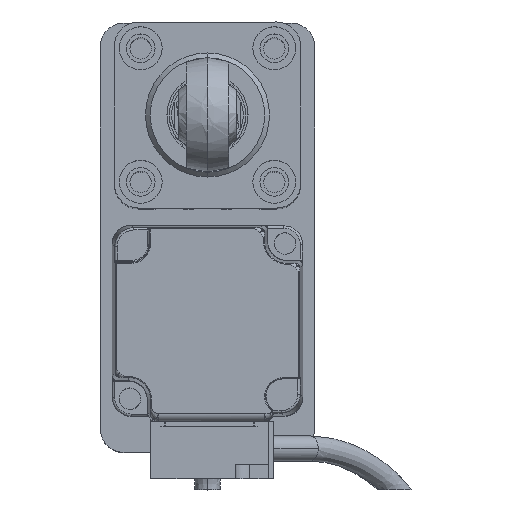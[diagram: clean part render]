
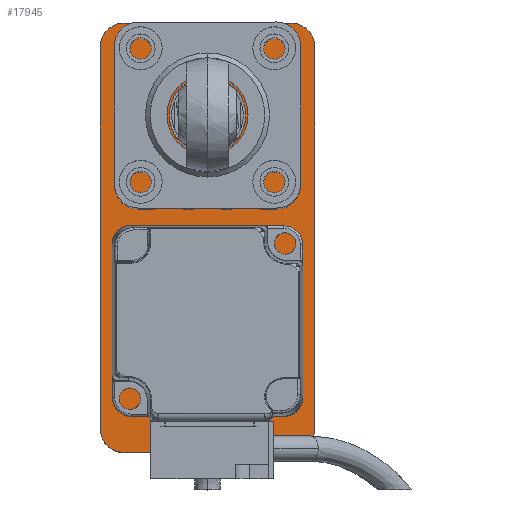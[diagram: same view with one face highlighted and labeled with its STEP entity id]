
A CAD part, top view. The second image highlights one B-rep face of the part: STEP entity #17945.
In plain terms, the highlighted planar face has unit normal (0, 0, 1).
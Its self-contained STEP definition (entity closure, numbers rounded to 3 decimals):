
#816 = AXIS2_PLACEMENT_3D ( 'NONE', #23848, #26377, #1260 ) ;
#823 = CIRCLE ( 'NONE', #816, 5. ) ;
#1222 = DIRECTION ( 'NONE',  ( 1., 0., 0. ) ) ;
#1260 = DIRECTION ( 'NONE',  ( 1., 0., 0. ) ) ;
#1509 = DIRECTION ( 'NONE',  ( 1., 0., 0. ) ) ;
#1605 = CARTESIAN_POINT ( 'NONE',  ( 0., 0., 10. ) ) ;
#1658 = LINE ( 'NONE', #21866, #7593 ) ;
#2030 = DIRECTION ( 'NONE',  ( 0., -1., 0. ) ) ;
#2950 = VECTOR ( 'NONE', #2030, 1000. ) ;
#3005 = CARTESIAN_POINT ( 'NONE',  ( 22.5, -45., 10. ) ) ;
#3023 = AXIS2_PLACEMENT_3D ( 'NONE', #19333, #11820, #14226 ) ;
#3083 = VECTOR ( 'NONE', #17116, 1000. ) ;
#3217 = EDGE_CURVE ( 'NONE', #3538, #24093, #27966, .T. ) ;
#3538 = VERTEX_POINT ( 'NONE', #12970 ) ;
#3651 = CARTESIAN_POINT ( 'NONE',  ( -17.5, 40., 10. ) ) ;
#4061 = ORIENTED_EDGE ( 'NONE', *, *, #25089, .T. ) ;
#5196 = EDGE_CURVE ( 'NONE', #15270, #20166, #13833, .T. ) ;
#6359 = DIRECTION ( 'NONE',  ( 0., 0., 1. ) ) ;
#6987 = AXIS2_PLACEMENT_3D ( 'NONE', #21448, #6359, #19574 ) ;
#7366 = EDGE_LOOP ( 'NONE', ( #29850, #4061, #13584, #19271, #16703, #19001, #9566, #15931 ) ) ;
#7593 = VECTOR ( 'NONE', #31975, 1000. ) ;
#7962 = FACE_OUTER_BOUND ( 'NONE', #7366, .T. ) ;
#8010 = CARTESIAN_POINT ( 'NONE',  ( 17.5, -45., 10. ) ) ;
#9105 = PLANE ( 'NONE',  #9331 ) ;
#9331 = AXIS2_PLACEMENT_3D ( 'NONE', #1605, #19273, #1509 ) ;
#9566 = ORIENTED_EDGE ( 'NONE', *, *, #31124, .T. ) ;
#9655 = LINE ( 'NONE', #16901, #2950 ) ;
#10603 = LINE ( 'NONE', #12068, #3083 ) ;
#11820 = DIRECTION ( 'NONE',  ( 0., 0., 1. ) ) ;
#11831 = EDGE_CURVE ( 'NONE', #23533, #3538, #9655, .T. ) ;
#12068 = CARTESIAN_POINT ( 'NONE',  ( 22.5, 45., 10. ) ) ;
#12970 = CARTESIAN_POINT ( 'NONE',  ( -22.5, -40., 10. ) ) ;
#13584 = ORIENTED_EDGE ( 'NONE', *, *, #14067, .T. ) ;
#13833 = CIRCLE ( 'NONE', #3023, 5. ) ;
#14009 = CARTESIAN_POINT ( 'NONE',  ( -17.5, -45., 10. ) ) ;
#14067 = EDGE_CURVE ( 'NONE', #22220, #19460, #10603, .T. ) ;
#14226 = DIRECTION ( 'NONE',  ( 1., 0., 0. ) ) ;
#15270 = VERTEX_POINT ( 'NONE', #8010 ) ;
#15811 = VERTEX_POINT ( 'NONE', #19396 ) ;
#15931 = ORIENTED_EDGE ( 'NONE', *, *, #5196, .T. ) ;
#16703 = ORIENTED_EDGE ( 'NONE', *, *, #11831, .T. ) ;
#16901 = CARTESIAN_POINT ( 'NONE',  ( -22.5, -45., 10. ) ) ;
#17116 = DIRECTION ( 'NONE',  ( -1., 0., 0. ) ) ;
#17945 = ADVANCED_FACE ( 'NONE', ( #7962 ), #9105, .T. ) ;
#19001 = ORIENTED_EDGE ( 'NONE', *, *, #3217, .T. ) ;
#19271 = ORIENTED_EDGE ( 'NONE', *, *, #20462, .T. ) ;
#19273 = DIRECTION ( 'NONE',  ( 0., 0., 1. ) ) ;
#19333 = CARTESIAN_POINT ( 'NONE',  ( 17.5, -40., 10. ) ) ;
#19396 = CARTESIAN_POINT ( 'NONE',  ( 22.5, 40., 10. ) ) ;
#19460 = VERTEX_POINT ( 'NONE', #25409 ) ;
#19574 = DIRECTION ( 'NONE',  ( 1., 0., 0. ) ) ;
#20166 = VERTEX_POINT ( 'NONE', #27460 ) ;
#20462 = EDGE_CURVE ( 'NONE', #19460, #23533, #24328, .T. ) ;
#20676 = CARTESIAN_POINT ( 'NONE',  ( 17.5, 45., 10. ) ) ;
#21448 = CARTESIAN_POINT ( 'NONE',  ( -17.5, -40., 10. ) ) ;
#21866 = CARTESIAN_POINT ( 'NONE',  ( 22.5, -45., 10. ) ) ;
#22220 = VERTEX_POINT ( 'NONE', #20676 ) ;
#22279 = EDGE_CURVE ( 'NONE', #20166, #15811, #31938, .T. ) ;
#23533 = VERTEX_POINT ( 'NONE', #24878 ) ;
#23703 = DIRECTION ( 'NONE',  ( 0., 0., 1. ) ) ;
#23848 = CARTESIAN_POINT ( 'NONE',  ( 17.5, 40., 10. ) ) ;
#24093 = VERTEX_POINT ( 'NONE', #14009 ) ;
#24328 = CIRCLE ( 'NONE', #29632, 5. ) ;
#24878 = CARTESIAN_POINT ( 'NONE',  ( -22.5, 40., 10. ) ) ;
#25089 = EDGE_CURVE ( 'NONE', #15811, #22220, #823, .T. ) ;
#25409 = CARTESIAN_POINT ( 'NONE',  ( -17.5, 45., 10. ) ) ;
#26377 = DIRECTION ( 'NONE',  ( 0., 0., 1. ) ) ;
#27460 = CARTESIAN_POINT ( 'NONE',  ( 22.5, -40., 10. ) ) ;
#27966 = CIRCLE ( 'NONE', #6987, 5. ) ;
#29632 = AXIS2_PLACEMENT_3D ( 'NONE', #3651, #23703, #1222 ) ;
#29850 = ORIENTED_EDGE ( 'NONE', *, *, #22279, .T. ) ;
#30871 = DIRECTION ( 'NONE',  ( 0., 1., 0. ) ) ;
#31124 = EDGE_CURVE ( 'NONE', #24093, #15270, #1658, .T. ) ;
#31183 = VECTOR ( 'NONE', #30871, 1000. ) ;
#31938 = LINE ( 'NONE', #3005, #31183 ) ;
#31975 = DIRECTION ( 'NONE',  ( 1., 0., 0. ) ) ;
